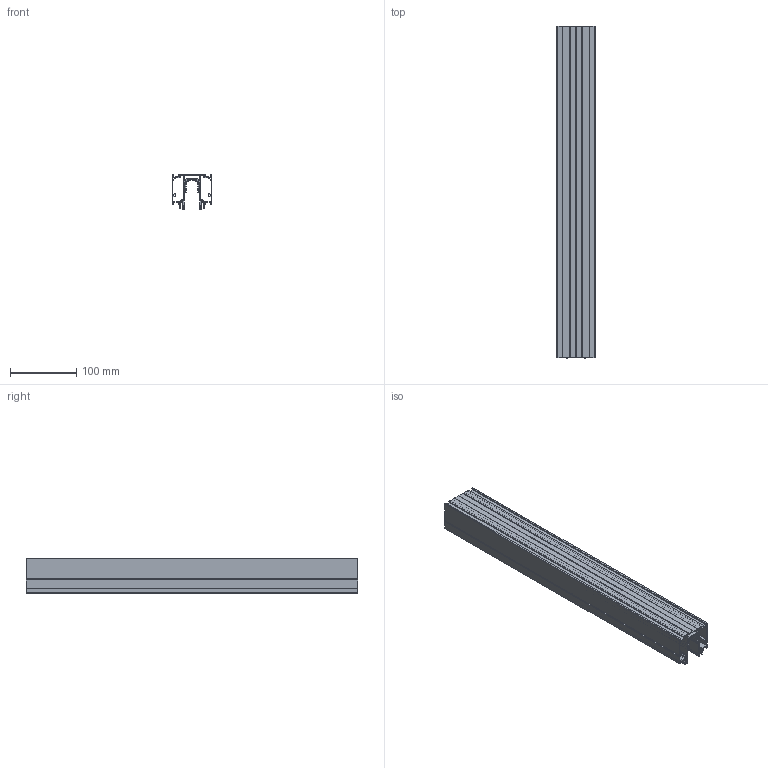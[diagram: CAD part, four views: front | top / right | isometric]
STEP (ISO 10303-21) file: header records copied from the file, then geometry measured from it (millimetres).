
FILE_DESCRIPTION((''),'2;1');
FILE_NAME('GF-1803_ASM','2026-03-06T11:15:08',('Administrator'),(''),'CREO PARAMETRIC BY PTC INC, 2020053','CREO PARAMETRIC BY PTC INC, 2020053','');
FILE_SCHEMA(('CONFIG_CONTROL_DESIGN'));
Length unit declared in the file: millimetre
Products named in the file (7): GF-1803; 20-TIET; 20-SLT; 20-TT; 20-TLT_ASM; 20-BTT_ASM; GF-1803_ASM
Assembly tree (8 placements, depth 4):
  GF-1803_ASM
    GF-1803
    20-TIET
    20-BTT_ASM
      20-TLT_ASM  x2
        20-SLT
        20-TT
Bounding box: 60 x 500 x 53 mm (x, y, z)
Volume: 284904.5 mm3; surface area: 469767.4 mm2
Topology: 8 solids, 8 shells, 360 faces, 1032 edges, 688 vertices
Faces by surface type: plane 299, cylinder 61
Entity records: 10460 total; most frequent: CARTESIAN_POINT 1852, ORIENTED_EDGE 1824, DIRECTION 1698, EDGE_CURVE 912, VECTOR 790, LINE 790, VERTEX_POINT 608, AXIS2_PLACEMENT_3D 454
